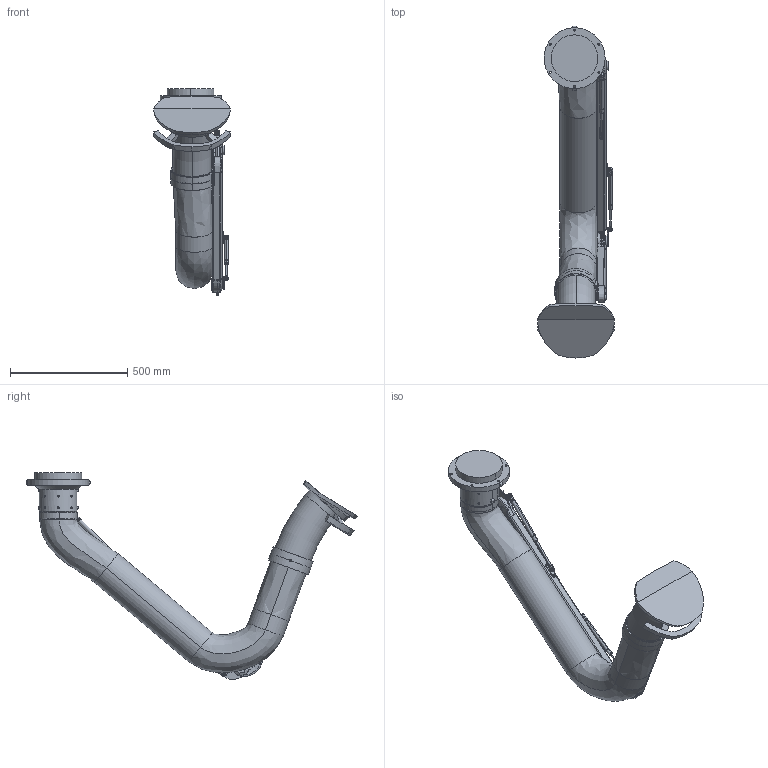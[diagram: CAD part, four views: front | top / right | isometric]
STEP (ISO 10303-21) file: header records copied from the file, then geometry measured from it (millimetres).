
FILE_DESCRIPTION((''),'2;1');
FILE_NAME('PRF-2000-160','2018-09-17T',('Gustav Stenberg'),(''),'CREO PARAMETRIC BY PTC INC, 2016130','CREO PARAMETRIC BY PTC INC, 2016130','');
FILE_SCHEMA(('AUTOMOTIVE_DESIGN { 1 0 10303 214 1 1 1 1 }'));
Length unit declared in the file: millimetre
Products named in the file (42): 102680; 100-5506_L_LIGHT; 100-5506_R_LIGHT; 100-5506; 100-5404-L_LIGHT; 100-5404-R_LIGHT; 100-5404; 100-5914; 100-5913; 100-5915; 122223; 102678; 100-5512-L_LIGHT; 100-512-R_LIGHT; 100-5512; 122220; 102715; 100-5911; 100-5518; 134111; LIGHT_SWIVEL_160_AF0; 126194; 127878; 136835; 136841; 137471; 100-5721_LIGHT; 100-5823C_LIGHT; 100-5862A_LIGHT; 100-5865A_LIGHT; 126056_AF1; 100-6341-160; PRF_HOSE_2000-160; 135584; STAB_K4-D4; 130368; 102118-REF; 135588; 130371; GAS_SPRING_ROD_STABILUS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
Assembly tree (45 placements, depth 5):
  PRF-2000-160
    134111
      122223
        102680
        100-5506
          100-5506_L_LIGHT
          100-5506_R_LIGHT
        100-5404
          100-5404-L_LIGHT
          100-5404-R_LIGHT
        100-5915  x2
          100-5914
          100-5913
      122220
        102678
        100-5512
          100-5512-L_LIGHT
          100-512-R_LIGHT
      100-5518
        102715
        100-5911
    137471
      126194
        LIGHT_SWIVEL_160_AF0
      136841
        127878
        100-5911
        136835
    100-5721_LIGHT
    100-6341-160
      100-5823C_LIGHT
      100-5862A_LIGHT
      100-5865A_LIGHT
      126056_AF1
    PRF_HOSE_2000-160
    130368
      135584
      STAB_K4-D4
    102118-REF
    130371
      135588
      STAB_K4-D4
    102845-REF
      GAS_SPRING_ROD_STABILUS
      STAB_K4-D4
Bounding box: 328.82 x 1415.56 x 882.03 mm (x, y, z)
Volume: 12549460.7 mm3; surface area: 2915231.7 mm2
Topology: 32 solids, 33 shells, 948 faces, 2294 edges, 1424 vertices
Faces by surface type: cylinder 342, plane 303, cone 115, bspline 81, torus 77, sphere 26, extrusion 4
Entity records: 44616 total; most frequent: CARTESIAN_POINT 11475, DIRECTION 4259, ORIENTED_EDGE 4046, EDGE_CURVE 2023, AXIS2_PLACEMENT_3D 1717, PROPERTY_DEFINITION 1608, REPRESENTATION 1582, PROPERTY_DEFINITION_REPRESENTATION 1582
